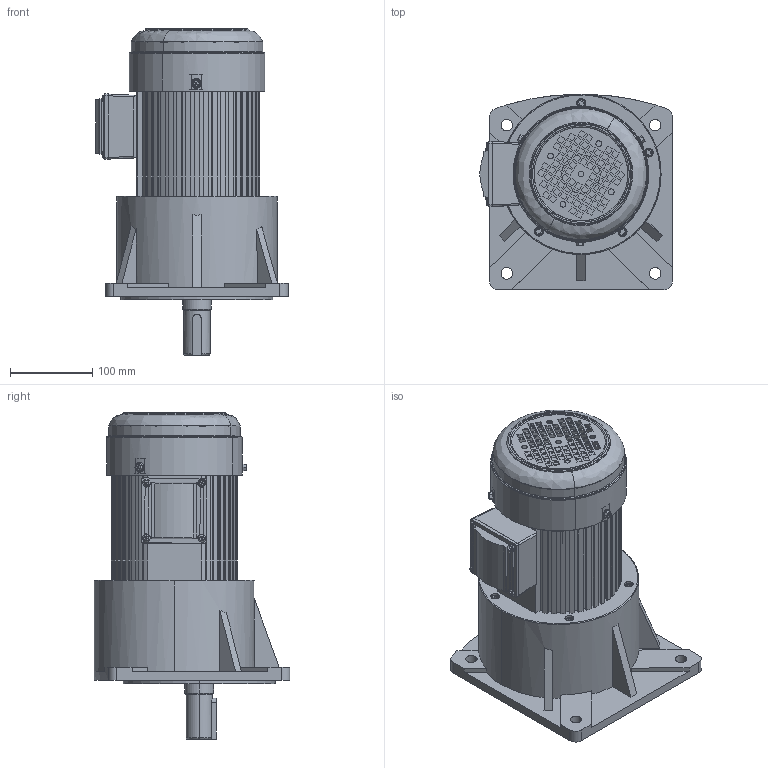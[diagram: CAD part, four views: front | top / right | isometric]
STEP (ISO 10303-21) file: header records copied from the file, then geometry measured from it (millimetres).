
FILE_DESCRIPTION (( 'STEP AP214' ), '1' );
FILE_NAME ('CV32-750W去字改颜色.STEP', '2024-01-11T03:52:16', ( '微软用户' ), ( '微软中国' ), 'SwSTEP 2.0', 'SolidWorks 2014', '' );
FILE_SCHEMA (( 'AUTOMOTIVE_DESIGN' ));
Length unit declared in the file: millimetre
Products named in the file (9): 瑞珔欶蹟佪; 諉盄碟蹟佪; 奻裔(臏ㄘ; 菁碟ㄗ臏ㄘ; 165瑞珔欶; 140綴裔; 750W; CV32; CV32-750W去字改颜色
Assembly tree (13 placements, depth 2):
  CV32-750W去字改颜色
    CV32
    750W
    140綴裔
    165瑞珔欶
    菁碟ㄗ臏ㄘ
    奻裔(臏ㄘ
    諉盄碟蹟佪  x4
    瑞珔欶蹟佪  x3
Bounding box: 234 x 238 x 397.12 mm (x, y, z)
Volume: 4526241.7 mm3; surface area: 637984.5 mm2
Topology: 16 solids, 16 shells, 1700 faces, 4683 edges, 3065 vertices
Faces by surface type: plane 855, cylinder 624, bspline 131, cone 90
Entity records: 71169 total; most frequent: CARTESIAN_POINT 34460, ORIENTED_EDGE 7808, DIRECTION 6837, EDGE_CURVE 3904, VERTEX_POINT 2558, VECTOR 2557, LINE 2557, AXIS2_PLACEMENT_3D 2140
